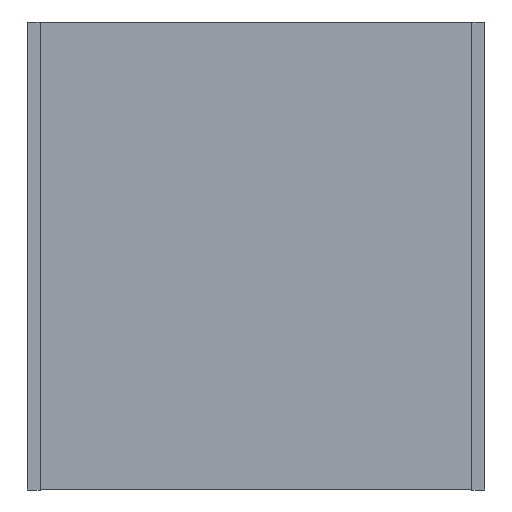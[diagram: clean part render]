
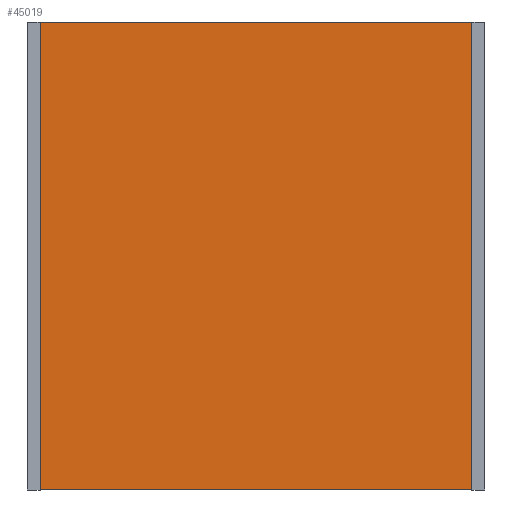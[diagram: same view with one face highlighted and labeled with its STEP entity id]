
A CAD part, left-side view. The second image highlights one B-rep face of the part: STEP entity #45019.
In plain terms, the highlighted planar face has unit normal (-1, 0, 0).
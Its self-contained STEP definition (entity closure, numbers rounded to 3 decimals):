
#113 = FACE_OUTER_BOUND ( 'NONE', #19018, .T. ) ;
#125 = VECTOR ( 'NONE', #4991, 1000. ) ;
#402 = VERTEX_POINT ( 'NONE', #26782 ) ;
#1329 = CARTESIAN_POINT ( 'NONE',  ( 0., 20.75, -22.5 ) ) ;
#2957 = CARTESIAN_POINT ( 'NONE',  ( 0., -20.75, 22.5 ) ) ;
#4158 = EDGE_CURVE ( 'NONE', #30327, #16165, #29919, .T. ) ;
#4213 = EDGE_CURVE ( 'NONE', #402, #16165, #29388, .T. ) ;
#4218 = EDGE_CURVE ( 'NONE', #8061, #402, #27669, .T. ) ;
#4300 = EDGE_CURVE ( 'NONE', #8061, #30327, #25789, .T. ) ;
#4991 = DIRECTION ( 'NONE',  ( 0., 0., 1. ) ) ;
#5506 = DIRECTION ( 'NONE',  ( 0., 0., 1. ) ) ;
#8061 = VERTEX_POINT ( 'NONE', #1329 ) ;
#15006 = CARTESIAN_POINT ( 'NONE',  ( 0., 20.75, -22.5 ) ) ;
#15045 = DIRECTION ( 'NONE',  ( 1., 0., 0. ) ) ;
#16165 = VERTEX_POINT ( 'NONE', #2957 ) ;
#17334 = CARTESIAN_POINT ( 'NONE',  ( 0., -20.75, -22.5 ) ) ;
#19018 = EDGE_LOOP ( 'NONE', ( #20170, #20605, #20754, #20794 ) ) ;
#20170 = ORIENTED_EDGE ( 'NONE', *, *, #4158, .T. ) ;
#20417 = CARTESIAN_POINT ( 'NONE',  ( 0., -20.75, 22.5 ) ) ;
#20605 = ORIENTED_EDGE ( 'NONE', *, *, #4213, .F. ) ;
#20754 = ORIENTED_EDGE ( 'NONE', *, *, #4218, .F. ) ;
#20794 = ORIENTED_EDGE ( 'NONE', *, *, #4300, .T. ) ;
#25599 = VECTOR ( 'NONE', #33323, 1000. ) ;
#25789 = LINE ( 'NONE', #15006, #25599 ) ;
#26782 = CARTESIAN_POINT ( 'NONE',  ( 0., 20.75, 22.5 ) ) ;
#27669 = LINE ( 'NONE', #28224, #27761 ) ;
#27761 = VECTOR ( 'NONE', #5506, 1000. ) ;
#28224 = CARTESIAN_POINT ( 'NONE',  ( 0., 20.75, 22.5 ) ) ;
#29220 = VECTOR ( 'NONE', #35104, 1000. ) ;
#29388 = LINE ( 'NONE', #42148, #29220 ) ;
#29919 = LINE ( 'NONE', #20417, #125 ) ;
#30327 = VERTEX_POINT ( 'NONE', #17334 ) ;
#33323 = DIRECTION ( 'NONE',  ( 0., -1., 0. ) ) ;
#35104 = DIRECTION ( 'NONE',  ( 0., -1., 0. ) ) ;
#36960 = CARTESIAN_POINT ( 'NONE',  ( 0., 20.75, 22.5 ) ) ;
#38620 = AXIS2_PLACEMENT_3D ( 'NONE', #36960, #15045, #40478 ) ;
#40346 = PLANE ( 'NONE',  #38620 ) ;
#40478 = DIRECTION ( 'NONE',  ( 0., 0., 1. ) ) ;
#42148 = CARTESIAN_POINT ( 'NONE',  ( 0., 20.75, 22.5 ) ) ;
#45019 = ADVANCED_FACE ( 'NONE', ( #113 ), #40346, .F. ) ;
